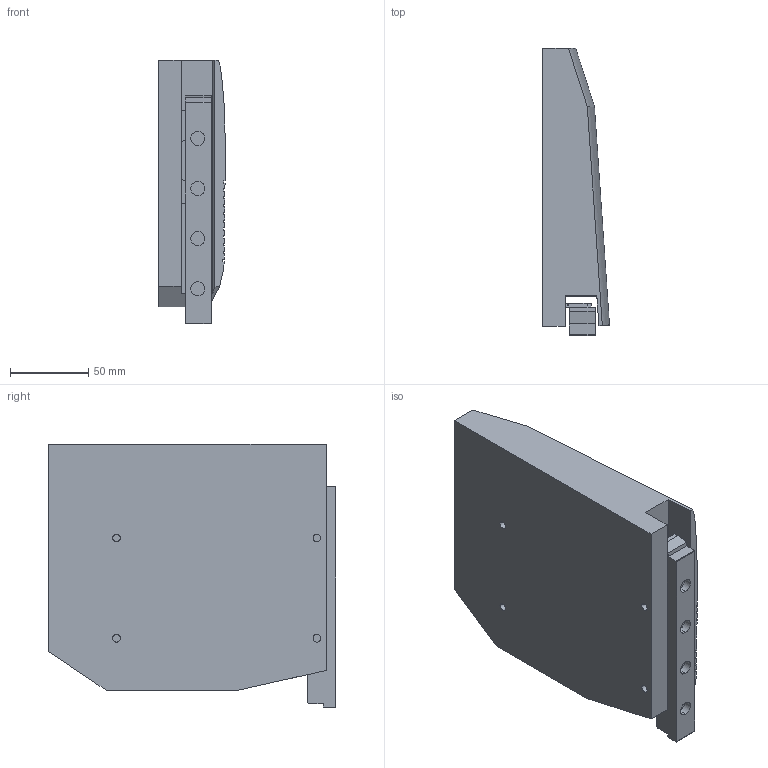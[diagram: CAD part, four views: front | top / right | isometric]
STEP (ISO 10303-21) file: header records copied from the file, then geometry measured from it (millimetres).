
FILE_DESCRIPTION (( 'STEP AP203' ), '1' );
FILE_NAME ('Kinvaro_T-76_links_D2772004325~a.step', '2012-05-04T06:56:47', ( 'admin' ), ( 'Hewlett-Packard Company' ), 'SwSTEP 2.0', 'SolidWorks 2011', '' );
FILE_SCHEMA (( 'CONFIG_CONTROL_DESIGN' ));
Length unit declared in the file: millimetre
Products named in the file (1): Kinvaro_T-76_links_D2772004325~a
Bounding box: 42.77 x 183.5 x 168.48 mm (x, y, z)
Volume: 919752.1 mm3; surface area: 94404.2 mm2
Topology: 1 solids, 1 shells, 185 faces, 507 edges, 330 vertices
Faces by surface type: plane 157, cylinder 20, bspline 8
Entity records: 5925 total; most frequent: CARTESIAN_POINT 1184, ORIENTED_EDGE 1014, DIRECTION 887, EDGE_CURVE 507, VECTOR 451, LINE 451, VERTEX_POINT 330, AXIS2_PLACEMENT_3D 218
